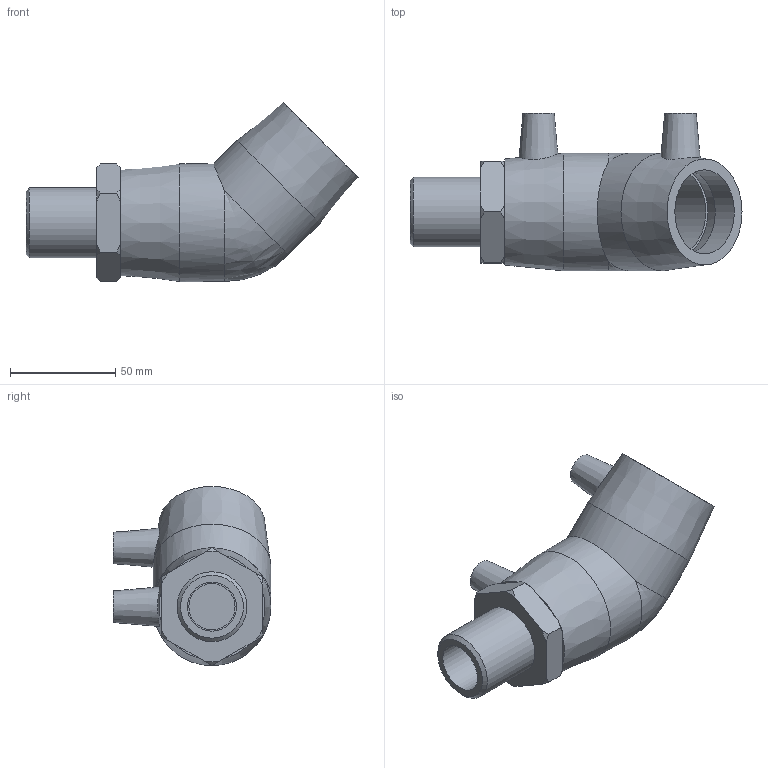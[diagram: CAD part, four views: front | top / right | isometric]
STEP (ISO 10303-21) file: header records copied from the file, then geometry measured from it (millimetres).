
FILE_DESCRIPTION(/* description */ ('PLASSON 45° ELBOW TRANSITION MALE 40 x 1"'),/* implementation_level */ '2;1');
FILE_NAME(/* name */ 'C:\Dropbox\KIMPROJECTS-Inventor\99-16-3568-Processing\ElectroFusion Fittings\02.02.20\492604\492604040010N.ipt.stp',/* time_stamp */ '2020-02-02T12:19:56+02:00',/* author */ ('KIM'),/* organization */ (''),/* preprocessor_version */ 'ST-DEVELOPER v15.6',/* originating_system */ 'Autodesk Inventor 2015',/* authorisation */ '');
FILE_SCHEMA (('AUTOMOTIVE_DESIGN { 1 0 10303 214 3 1 1 }'));
Length unit declared in the file: millimetre
Products named in the file (1): 492604040010N
Bounding box: 158 x 75 x 85.24 mm (x, y, z)
Volume: 218922.3 mm3; surface area: 48250.6 mm2
Topology: 1 solids, 2 shells, 61 faces, 137 edges, 90 vertices
Faces by surface type: plane 25, cone 19, cylinder 16, bspline 1
Full cylindrical faces by diameter (mm): 4 x2, 10 x2, 22 x1, 23.274 x1, 26 x2, 33.249 x1, 40 x4, 56 x2
Entity records: 1535 total; most frequent: CARTESIAN_POINT 369, DIRECTION 245, ORIENTED_EDGE 194, AXIS2_PLACEMENT_3D 113, EDGE_LOOP 99, EDGE_CURVE 97, VERTEX_POINT 76, FACE_OUTER_BOUND 61
